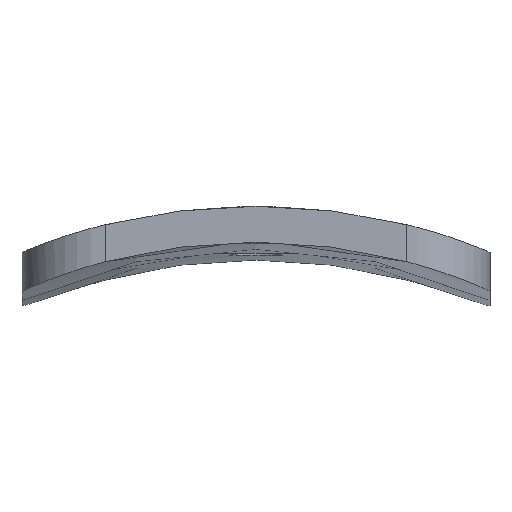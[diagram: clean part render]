
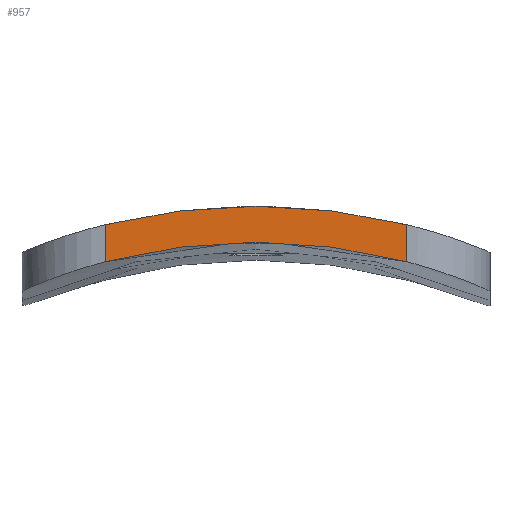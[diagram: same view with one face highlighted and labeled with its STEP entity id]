
A CAD part, top view. The second image highlights one B-rep face of the part: STEP entity #957.
In plain terms, the highlighted planar face has unit normal (0, 0, 1).
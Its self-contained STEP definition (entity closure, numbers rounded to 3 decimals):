
#295 = VERTEX_POINT('',#296);
#296 = CARTESIAN_POINT('',(-9.,36.484,142.));
#337 = EDGE_CURVE('',#338,#295,#340,.T.);
#338 = VERTEX_POINT('',#339);
#339 = CARTESIAN_POINT('',(9.,36.484,142.));
#340 = CIRCLE('',#341,37.577);
#341 = AXIS2_PLACEMENT_3D('',#342,#343,#344);
#342 = CARTESIAN_POINT('',(0.,0.,142.));
#343 = DIRECTION('',(0.,0.,1.));
#344 = DIRECTION('',(1.,0.,0.));
#911 = EDGE_CURVE('',#912,#338,#914,.T.);
#912 = VERTEX_POINT('',#913);
#913 = CARTESIAN_POINT('',(9.,34.265,142.));
#914 = LINE('',#915,#916);
#915 = CARTESIAN_POINT('',(9.,22.,142.));
#916 = VECTOR('',#917,1.);
#917 = DIRECTION('',(0.,1.,0.));
#957 = ADVANCED_FACE('',(#958),#977,.T.);
#958 = FACE_BOUND('',#959,.T.);
#959 = EDGE_LOOP('',(#960,#968,#975,#976));
#960 = ORIENTED_EDGE('',*,*,#961,.F.);
#961 = EDGE_CURVE('',#962,#295,#964,.T.);
#962 = VERTEX_POINT('',#963);
#963 = CARTESIAN_POINT('',(-9.,34.265,142.));
#964 = LINE('',#965,#966);
#965 = CARTESIAN_POINT('',(-9.,22.,142.));
#966 = VECTOR('',#967,1.);
#967 = DIRECTION('',(0.,1.,0.));
#968 = ORIENTED_EDGE('',*,*,#969,.F.);
#969 = EDGE_CURVE('',#912,#962,#970,.T.);
#970 = CIRCLE('',#971,35.427);
#971 = AXIS2_PLACEMENT_3D('',#972,#973,#974);
#972 = CARTESIAN_POINT('',(0.,0.,142.));
#973 = DIRECTION('',(0.,0.,1.));
#974 = DIRECTION('',(1.,0.,0.));
#975 = ORIENTED_EDGE('',*,*,#911,.T.);
#976 = ORIENTED_EDGE('',*,*,#337,.T.);
#977 = PLANE('',#978);
#978 = AXIS2_PLACEMENT_3D('',#979,#980,#981);
#979 = CARTESIAN_POINT('',(-9.,22.,142.));
#980 = DIRECTION('',(0.,0.,1.));
#981 = DIRECTION('',(1.,0.,0.));
